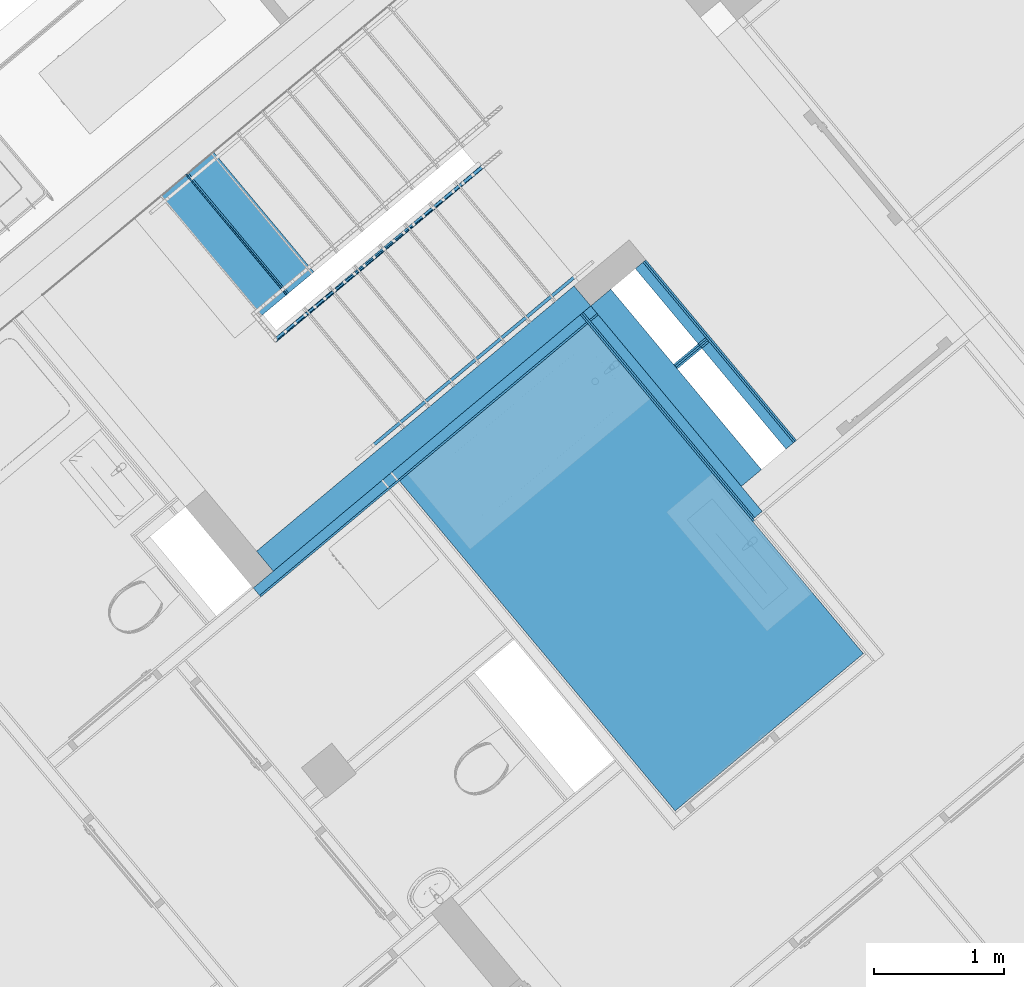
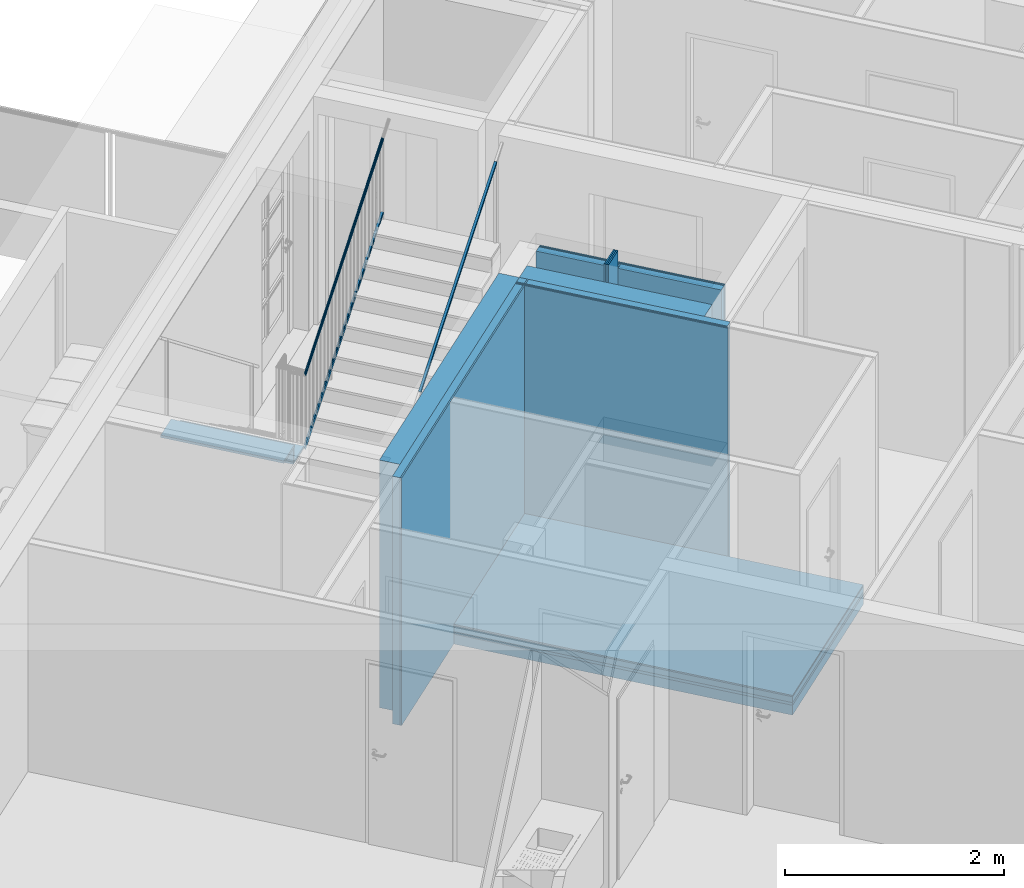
# One storey, part 32 of 67: 23 building element parts, 8 elements without a shape of their own.
"""IFC4 building model written with IfcOpenShell, lengths in metres."""

from ifc_helpers import new_model, entity, si_unit, converted_unit, derived_unit, direction, frame, origin_with_axes, place, context, subcontext, project, spatial, polygons, material, type_object, element, aggregate, save


model = new_model("IFC4")

# Units and contexts
model_context = context("Model", 3, precision=1e-05, world=origin_with_axes(), true_north=direction((0.0, 1.0)))
body_context = subcontext(model_context, "Body", "Model", "MODEL_VIEW")
ifc_project = project(units=[si_unit("LENGTHUNIT", "METRE"), si_unit("AREAUNIT", "SQUARE_METRE"), si_unit("VOLUMEUNIT", "CUBIC_METRE"), converted_unit("PLANEANGLEUNIT", "DEGREE", entity("IfcPlaneAngleMeasure", 0.0174532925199), si_unit("PLANEANGLEUNIT", "RADIAN"), dimensions=[0, 0, 0, 0, 0, 0, 0]), converted_unit("TIMEUNIT", "Year", entity("IfcTimeMeasure", 31556926.0), si_unit("TIMEUNIT", "SECOND"), dimensions=[0, 0, 1, 0, 0, 0, 0]), si_unit("MASSUNIT", "GRAM", prefix="KILO"), si_unit("THERMODYNAMICTEMPERATUREUNIT", "DEGREE_CELSIUS"), si_unit("LUMINOUSINTENSITYUNIT", "LUMEN"), si_unit("ENERGYUNIT", "JOULE", prefix="MEGA"), derived_unit("THERMALCONDUCTANCEUNIT", [(si_unit("POWERUNIT", "WATT"), 1), (si_unit("LENGTHUNIT", "METRE"), -1), (si_unit("THERMODYNAMICTEMPERATUREUNIT", "KELVIN"), -1)]), derived_unit("SPECIFICHEATCAPACITYUNIT", [(si_unit("ENERGYUNIT", "JOULE"), 1), (si_unit("MASSUNIT", "GRAM", prefix="KILO"), -1), (si_unit("THERMODYNAMICTEMPERATUREUNIT", "KELVIN"), -1)]), derived_unit("MASSDENSITYUNIT", [(si_unit("MASSUNIT", "GRAM", prefix="KILO"), 1), (si_unit("VOLUMEUNIT", "CUBIC_METRE"), -1)])], contexts=[model_context])

# Site, building, storey
site_placement = place(None, frame((-0.00153261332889, -0.00661245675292, 0.0), z_axis=(0.0, 0.0, 1.0), x_axis=(1.0, 0.0, 0.0)))
site = spatial("IfcSite", under=ifc_project, at=site_placement, Name="Site", CompositionType="ELEMENT")
building_placement = place(site_placement, origin_with_axes())
building = spatial("IfcBuilding", under=site, at=building_placement, Name="Building", CompositionType="ELEMENT")
storey_placement = place(building_placement, frame((0.0, 0.0, -0.22), z_axis=(0.0, 0.0, 1.0), x_axis=(1.0, 0.0, 0.0)))
storey = spatial("IfcBuildingStorey", under=building, at=storey_placement, Name="EG", CompositionType="ELEMENT", Elevation=-0.22)

# Railing, building element parts
railing_type = type_object("IfcRailingType", Name="Geländerart", PredefinedType="NOTDEFINED")
railing_1_placement = place(storey_placement, frame((-0.398547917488, 23.8355657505, 0.05), z_axis=(0.0, 0.0, 1.0), x_axis=(1.0, 0.0, 0.0)))
railing_1 = element("IfcRailing", 1, at=railing_1_placement, inside=storey, type_object=railing_type, Name="Geländer - 001", PredefinedType="NOTDEFINED")
ifc_material_1 = material(Name="BEKLEIDUNG")
building_element_part_1_placement = place(railing_1_placement, origin_with_axes())
building_element_part_1 = element("IfcBuildingElementPart", 2, at=building_element_part_1_placement, material=ifc_material_1, Name="BEKLEIDUNG", PredefinedType="NOTDEFINED", context=body_context, shape_type="Tessellation", body=[
    polygons([(-1.63742845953, -1.63075810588, 2.62537536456), (-1.63846858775, -1.63088446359, 2.62789734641), (-0.0630386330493, -0.30687497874, 3.89943593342), (-1.63648900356, -1.63122206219, 2.62285338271), (-1.63567876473, -1.63226223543, 2.62040803), (-1.63502236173, -1.63384702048, 2.61811360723), (-1.63453973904, -1.63592826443, 2.61603982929), (-1.63424556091, -1.63844272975, 2.61424970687), (-1.63414876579, -1.64131401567, 2.61279763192), (-1.63425229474, -1.64445487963, 2.61172772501), (-1.63455300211, -1.64776988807, 2.61107249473), (-1.63504175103, -1.65115831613, 2.61085184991), (-1.63570369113, -1.65451720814, 2.61107249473), (-1.63651870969, -1.65774450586, 2.61172772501), (-1.63746204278, -1.66074214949, 2.61279763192), (-1.63850502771, -1.66341905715, 2.61424970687), (-1.63961597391, -1.66569389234, 2.61603982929), (-1.64076112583, -1.66749753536, 2.61811360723), (-1.64190568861, -1.66877518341, 2.62040803), (-1.64301488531, -1.66948801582, 2.62285338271), (-1.64405501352, -1.66961437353, 2.62537536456), (-1.64499446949, -1.66915041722, 2.62789734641), (-1.64580470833, -1.66811024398, 2.63034269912), (-1.64646111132, -1.66652545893, 2.63263712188), (-1.64694373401, -1.66444421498, 2.63471089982), (-1.64723791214, -1.66192974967, 2.63650102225), (-1.64733470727, -1.65905846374, 2.6379530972), (-1.64723117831, -1.65591759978, 2.6390230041), (-1.64693047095, -1.65260259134, 2.63967823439), (-1.64644172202, -1.64921416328, 2.63989887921), (-1.64577978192, -1.64585527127, 2.63967823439), (-1.64496476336, -1.64262797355, 2.6390230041), (-1.64402143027, -1.63963032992, 2.6379530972), (-1.64297844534, -1.63695342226, 2.63650102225), (-1.64186749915, -1.63467858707, 2.63471089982), (-1.64072234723, -1.63287494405, 2.63263712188), (-1.63957778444, -1.631597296, 2.63034269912), (-0.0636185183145, -0.30824141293, 3.90158839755), (-0.0621391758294, -0.305826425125, 3.89721601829), (-0.0609474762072, -0.305127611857, 3.89499610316), (-0.0594997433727, -0.304799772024, 3.89284363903), (-0.0578399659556, -0.304852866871, 3.89082402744), (-0.0560185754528, -0.305285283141, 3.88899863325), (-0.054090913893, -0.306083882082, 3.88742292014), (-0.0521155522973, -0.30722439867, 3.88614476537), (-0.0501525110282, -0.308672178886, 3.88520300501), (-0.0482614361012, -0.310383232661, 3.88462625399), (-0.0464997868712, -0.312305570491, 3.88443203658), (-0.0449210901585, -0.314380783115, 3.88462625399), (-0.043573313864, -0.316545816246, 3.88520300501), (-0.0424974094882, -0.318734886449, 3.88614476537), (-0.0417260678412, -0.320881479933, 3.88742292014), (-0.0412827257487, -0.322920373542, 3.88899863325), (-0.0411808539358, -0.324789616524, 3.89082402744), (-0.041423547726, -0.326432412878, 3.89284363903), (-0.0420034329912, -0.327798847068, 3.89499610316), (-0.0429028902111, -0.328847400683, 3.89721601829), (-0.0440945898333, -0.329546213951, 3.89943593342), (-0.0455423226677, -0.329874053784, 3.90158839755), (-0.0472021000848, -0.329820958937, 3.90360800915), (-0.0490234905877, -0.329388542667, 3.90543340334), (-0.0509511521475, -0.328589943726, 3.90700911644), (-0.0529265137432, -0.327449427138, 3.90828727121), (-0.0548895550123, -0.326001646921, 3.90922903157), (-0.0567806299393, -0.324290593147, 3.90980578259), (-0.0585422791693, -0.322368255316, 3.91), (-0.0601209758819, -0.320293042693, 3.90980578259), (-0.0614687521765, -0.318128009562, 3.90922903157), (-0.0625446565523, -0.315938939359, 3.90828727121), (-0.0633159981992, -0.313792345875, 3.90700911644), (-0.0637593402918, -0.311753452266, 3.90543340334), (-0.0638612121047, -0.309884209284, 3.90360800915)], [[[1, 2, 3]], [[1, 4, 5, 6, 7, 8, 9, 10, 11, 12, 13, 14, 15, 16, 17, 18, 19, 20, 21, 22, 23, 24, 25, 26, 27, 28, 29, 30, 31, 32, 33, 34, 35, 36, 37, 2]], [[2, 38, 3]], [[1, 3, 39]], [[4, 1, 39]], [[5, 4, 40]], [[6, 5, 41]], [[7, 6, 42]], [[8, 7, 43]], [[9, 8, 44]], [[10, 9, 45]], [[11, 10, 46]], [[12, 11, 47]], [[13, 12, 48]], [[14, 13, 49]], [[15, 14, 50]], [[16, 15, 51]], [[17, 16, 52]], [[18, 17, 53]], [[19, 18, 54]], [[20, 19, 55]], [[21, 20, 56]], [[22, 21, 57]], [[23, 22, 58]], [[24, 23, 59]], [[25, 24, 60]], [[26, 25, 61]], [[27, 26, 62]], [[28, 27, 63]], [[29, 28, 64]], [[30, 29, 65]], [[31, 30, 66]], [[32, 31, 67]], [[33, 32, 68]], [[34, 33, 69]], [[35, 34, 70]], [[36, 35, 71]], [[37, 36, 72]], [[2, 37, 38]], [[39, 3, 38, 72, 71, 70, 69, 68, 67, 66, 65, 64, 63, 62, 61, 60, 59, 58, 57, 56, 55, 54, 53, 52, 51, 50, 49, 48, 47, 46, 45, 44, 43, 42, 41, 40]], [[4, 39, 40]], [[5, 40, 41]], [[6, 41, 42]], [[7, 42, 43]], [[8, 43, 44]], [[9, 44, 45]], [[10, 45, 46]], [[11, 46, 47]], [[12, 47, 48]], [[13, 48, 49]], [[14, 49, 50]], [[15, 50, 51]], [[16, 51, 52]], [[17, 52, 53]], [[18, 53, 54]], [[19, 54, 55]], [[20, 55, 56]], [[21, 56, 57]], [[22, 57, 58]], [[23, 58, 59]], [[24, 59, 60]], [[25, 60, 61]], [[26, 61, 62]], [[27, 62, 63]], [[28, 63, 64]], [[29, 64, 65]], [[30, 65, 66]], [[31, 66, 67]], [[32, 67, 68]], [[33, 68, 69]], [[34, 69, 70]], [[35, 70, 71]], [[36, 71, 72]], [[37, 72, 38]]], closed=True),
])
building_element_part_2_placement = place(railing_1_placement, origin_with_axes())
building_element_part_2 = element("IfcBuildingElementPart", 3, at=building_element_part_2_placement, material=ifc_material_1, Name="BEKLEIDUNG", PredefinedType="NOTDEFINED", context=body_context, shape_type="Tessellation", body=[
    polygons([(-1.6539527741, -1.66459421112, 1.82200180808), (-1.64445279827, -1.66621433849, 1.79779595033), (-0.0455094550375, -0.327767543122, 3.06934668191), (-1.64843064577, -1.63221398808, 1.82200180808), (-1.63893066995, -1.63383411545, 1.79779595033), (-0.0615396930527, -0.308583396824, 3.06934668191), (-0.0555448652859, -0.336153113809, 3.09065331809), (-0.0715751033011, -0.316968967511, 3.09065331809)], [[[1, 2, 3]], [[1, 4, 5, 2]], [[2, 6, 3]], [[1, 3, 7]], [[4, 1, 7]], [[5, 4, 8]], [[2, 5, 6]], [[7, 3, 6, 8]], [[4, 7, 8]], [[5, 8, 6]]], closed=True),
])
aggregate(railing_1, [building_element_part_1, building_element_part_2])

# Railing, building element part
railing_2_placement = place(storey_placement, frame((-1.26480795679, 21.3396367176, 1.82058823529), z_axis=(0.0, 0.0, 1.0), x_axis=(1.0, 0.0, 0.0)))
railing_2 = element("IfcRailing", 4, at=railing_2_placement, inside=storey, type_object=railing_type, Name="Geländer - 002", PredefinedType="NOTDEFINED")
building_element_part_3_placement = place(railing_2_placement, origin_with_axes())
building_element_part_3 = element("IfcBuildingElementPart", 5, at=building_element_part_3_placement, material=ifc_material_1, Name="BEKLEIDUNG", PredefinedType="NOTDEFINED", context=body_context, shape_type="Tessellation", body=[
    polygons([(-0.024045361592, 0.0287762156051, 0.9), (-0.0139891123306, 0.0371791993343, 0.878710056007), (1.53111960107, 1.32826925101, 2.11812182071), (1.52106335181, 1.31986626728, 2.13941176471), (-0.0400755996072, 0.0479603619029, 0.9), (-0.0300193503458, 0.0563633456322, 0.878710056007), (1.51508936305, 1.34745339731, 2.11812182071), (1.50503311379, 1.33905041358, 2.13941176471)], [[[1, 2, 3, 4]], [[1, 5, 6, 2]], [[2, 6, 7, 3]], [[4, 3, 7, 8]], [[5, 1, 4, 8]], [[6, 5, 8, 7]]], closed=True),
])
aggregate(railing_2, [building_element_part_3])

# Stair, building element parts
stair_type = type_object("IfcStairType", Name="Treppentyp", PredefinedType="NOTDEFINED")
stair_placement = place(storey_placement, frame((-0.972083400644, 24.9200947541, 0.05), z_axis=(0.0, 0.0, 1.0), x_axis=(1.0, 0.0, 0.0)))
stair = element("IfcStair", 6, at=stair_placement, inside=storey, type_object=stair_type, Name="Treppe - 001", PredefinedType="NOTDEFINED")
building_element_part_4_placement = place(stair_placement, origin_with_axes())
building_element_part_4 = element("IfcBuildingElementPart", 7, at=building_element_part_4_placement, material=ifc_material_1, Name="BEKLEIDUNG", PredefinedType="NOTDEFINED", context=body_context, shape_type="Tessellation", body=[
    polygons([(-1.75255458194, -1.46427912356, 1.56852941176), (-1.76022856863, -1.47069082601, 1.56852941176), (-0.990824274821, -2.39156922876, 1.56852941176), (-0.983150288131, -2.38515752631, 1.56852941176), (-1.75255458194, -1.46427912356, 1.41647058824), (-1.76022856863, -1.47069082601, 1.41647058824), (-0.990824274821, -2.39156922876, 1.41647058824), (-0.983150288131, -2.38515752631, 1.41647058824)], [[[1, 2, 3, 4]], [[1, 5, 6, 2]], [[2, 6, 7, 3]], [[4, 3, 7, 8]], [[5, 1, 4, 8]], [[6, 5, 8, 7]]], closed=True),
])
building_element_part_5_placement = place(stair_placement, origin_with_axes())
building_element_part_5 = element("IfcBuildingElementPart", 8, at=building_element_part_5_placement, material=ifc_material_1, Name="BEKLEIDUNG", PredefinedType="NOTDEFINED", context=body_context, shape_type="Tessellation", body=[
    polygons([(-0.778492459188, -2.21416360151, 1.39147058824), (-1.547896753, -1.29328519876, 1.39147058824), (-1.547896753, -1.29328519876, 1.41647058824), (-0.778492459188, -2.21416360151, 1.41647058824), (-0.99082427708, -2.39156923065, 1.39147058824), (-1.76022856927, -1.47069082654, 1.39147058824), (-1.76022856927, -1.47069082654, 1.41647058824), (-0.99082427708, -2.39156923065, 1.41647058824)], [[[1, 2, 3, 4]], [[1, 5, 6, 2]], [[2, 6, 7, 3]], [[4, 3, 7, 8]], [[5, 1, 4, 8]], [[6, 5, 8, 7]]], closed=True),
])
building_element_part_6_placement = place(stair_placement, origin_with_axes())
building_element_part_6 = element("IfcBuildingElementPart", 9, at=building_element_part_6_placement, material=ifc_material_1, Name="BEKLEIDUNG", PredefinedType="NOTDEFINED", context=body_context, shape_type="Tessellation", body=[
    polygons([(-0.971639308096, -2.37553997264, 1.56852941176), (-1.74104360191, -1.45466156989, 1.56852941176), (-1.74104360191, -1.45466156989, 1.59352941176), (-0.971639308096, -2.37553997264, 1.59352941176), (-1.16478615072, -2.53691633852, 1.56852941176), (-1.18397113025, -2.55294559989, 1.56852941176), (-1.95337541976, -1.63206719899, 1.56852941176), (-1.93419045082, -1.61603794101, 1.56852941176), (-1.93419045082, -1.61603794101, 1.59352941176), (-1.95337541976, -1.63206719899, 1.59352941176), (-1.18397113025, -2.55294559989, 1.59352941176), (-1.16478615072, -2.53691633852, 1.59352941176)], [[[1, 2, 3, 4]], [[1, 5, 6, 7, 8, 2]], [[2, 8, 9, 3]], [[4, 3, 9, 10, 11, 12]], [[5, 1, 4, 12]], [[6, 5, 12, 11]], [[7, 6, 11, 10]], [[8, 7, 10, 9]]], closed=True),
])
aggregate(stair, [building_element_part_4, building_element_part_5, building_element_part_6])

# Wall, building element parts
wall_type_1 = type_object("IfcWallType", Name="LB 9,0 cm einfache Vorsatzschale + STB 290", PredefinedType="NOTDEFINED")
wall_1_placement = place(storey_placement, frame((0.242882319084, 22.5994599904, 0.0), z_axis=(0.0, 0.0, 1.0), x_axis=(-0.767365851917, -0.641209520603, 0.0)))
wall_1 = element("IfcWall", 10, at=wall_1_placement, inside=storey, type_object=wall_type_1, Name="Wand-003", PredefinedType="NOTDEFINED")
ifc_material_2 = material(Name="Gipskarton")
building_element_part_7_placement = place(wall_1_placement, origin_with_axes())
building_element_part_7 = element("IfcBuildingElementPart", 11, at=building_element_part_7_placement, material=ifc_material_2, Name="Gipskarton", PredefinedType="NOTDEFINED", context=body_context, shape_type="Tessellation", body=[
    polygons([(3.37052385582, 0.275, 0.0), (0.0, 0.275, 0.0), (0.0, 0.29, 0.0), (3.37052385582, 0.29, 0.0), (3.37052385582, 0.275, 2.76), (0.0, 0.275, 2.76), (0.0, 0.29, 2.76), (3.37052385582, 0.29, 2.76)], [[[1, 2, 3, 4]], [[5, 6, 2, 1]], [[3, 2, 6, 7]], [[4, 3, 7, 8]], [[4, 8, 5, 1]], [[8, 7, 6, 5]]], closed=True),
])
ifc_material_3 = material(Name="Mineralwolle weich")
building_element_part_8_placement = place(wall_1_placement, origin_with_axes())
building_element_part_8 = element("IfcBuildingElementPart", 12, at=building_element_part_8_placement, material=ifc_material_3, Name="Mineralwolle weich", PredefinedType="NOTDEFINED", context=body_context, shape_type="Tessellation", body=[
    polygons([(3.37052385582, 0.2, 0.0), (0.0, 0.2, 0.0), (0.0, 0.275, 0.0), (3.37052385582, 0.275, 0.0), (3.37052385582, 0.2, 2.76), (0.0, 0.2, 2.76), (0.0, 0.275, 2.76), (3.37052385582, 0.275, 2.76)], [[[1, 2, 3, 4]], [[5, 6, 2, 1]], [[3, 2, 6, 7]], [[4, 3, 7, 8]], [[4, 8, 5, 1]], [[8, 7, 6, 5]]], closed=True),
])
ifc_material_4 = material(Name="Stahlbeton Wand")
building_element_part_9_placement = place(wall_1_placement, origin_with_axes())
building_element_part_9 = element("IfcBuildingElementPart", 13, at=building_element_part_9_placement, material=ifc_material_4, Name="Stahlbeton Wand", PredefinedType="NOTDEFINED", context=body_context, shape_type="Tessellation", body=[
    polygons([(3.17052385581, 0.0, 0.0), (0.0, 0.0, 0.0), (0.0, 0.2, 0.0), (3.17052385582, 0.2, 0.0), (3.17052385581, 0.0, 2.76), (0.0, 0.0, 2.76), (0.0, 0.2, 2.76), (3.17052385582, 0.2, 2.76)], [[[1, 2, 3, 4]], [[5, 6, 2, 1]], [[3, 2, 6, 7]], [[4, 3, 7, 8]], [[4, 8, 5, 1]], [[8, 7, 6, 5]]], closed=True),
])
aggregate(wall_1, [building_element_part_7, building_element_part_8, building_element_part_9])

wall_type_2 = type_object("IfcWallType", Name="LB Dreifach Vorsatzschale Schacht 45", PredefinedType="NOTDEFINED")
wall_2_placement = place(storey_placement, frame((1.03476523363, 21.9638652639, 0.0), z_axis=(0.0, 0.0, 1.0), x_axis=(0.767670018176, 0.640845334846, 0.0)))
wall_2 = element("IfcWall", 14, at=wall_2_placement, inside=storey, type_object=wall_type_2, Name="Wand-002", PredefinedType="NOTDEFINED")
building_element_part_10_placement = place(wall_2_placement, origin_with_axes())
building_element_part_10 = element("IfcBuildingElementPart", 15, at=building_element_part_10_placement, material=ifc_material_2, Name="Gipskarton", PredefinedType="NOTDEFINED", context=body_context, shape_type="Tessellation", body=[
    polygons([(0.320121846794, 0.045, 2.76), (0.320121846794, 0.03, 2.76), (0.320121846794, 0.03, 0.0), (0.320121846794, 0.045, 0.0), (0.245121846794, 0.03, 2.76), (0.245121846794, 0.045, 2.76), (0.245121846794, 0.03, 2.96), (0.0, 0.03, 2.96), (0.0, 0.03, 0.0), (0.0, 0.045, 0.0), (0.0, 0.045, 2.96), (0.245121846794, 0.045, 2.96)], [[[1, 2, 3, 4]], [[5, 2, 1, 6]], [[5, 7, 8, 9, 3, 2]], [[4, 3, 9, 10]], [[6, 1, 4, 10, 11, 12]], [[12, 7, 5, 6]], [[7, 12, 11, 8]], [[11, 10, 9, 8]]], closed=True),
])
building_element_part_11_placement = place(wall_2_placement, origin_with_axes())
building_element_part_11 = element("IfcBuildingElementPart", 16, at=building_element_part_11_placement, material=ifc_material_2, Name="Gipskarton", PredefinedType="NOTDEFINED", context=body_context, shape_type="Tessellation", body=[
    polygons([(0.320121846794, 0.03, 2.76), (0.320121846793, 0.015, 2.76), (0.320121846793, 0.015, 0.0), (0.320121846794, 0.03, 0.0), (0.245121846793, 0.015, 2.76), (0.245121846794, 0.03, 2.76), (0.245121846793, 0.015, 2.96), (0.0, 0.015, 2.96), (0.0, 0.015, 0.0), (0.0, 0.03, 0.0), (0.0, 0.03, 2.96), (0.245121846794, 0.03, 2.96)], [[[1, 2, 3, 4]], [[5, 2, 1, 6]], [[5, 7, 8, 9, 3, 2]], [[4, 3, 9, 10]], [[6, 1, 4, 10, 11, 12]], [[12, 7, 5, 6]], [[7, 12, 11, 8]], [[11, 10, 9, 8]]], closed=True),
])
building_element_part_12_placement = place(wall_2_placement, origin_with_axes())
building_element_part_12 = element("IfcBuildingElementPart", 17, at=building_element_part_12_placement, material=ifc_material_2, Name="Gipskarton", PredefinedType="NOTDEFINED", context=body_context, shape_type="Tessellation", body=[
    polygons([(0.320121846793, 0.015, 2.76), (0.320121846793, 0.0, 2.76), (0.320121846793, 0.0, 0.0), (0.320121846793, 0.015, 0.0), (0.245121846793, 0.0, 2.76), (0.245121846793, 0.015, 2.76), (0.245121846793, 0.0, 2.96), (0.0, 0.0, 2.96), (0.0, 0.0, 0.0), (0.0, 0.015, 0.0), (0.0, 0.015, 2.96), (0.245121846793, 0.015, 2.96)], [[[1, 2, 3, 4]], [[5, 2, 1, 6]], [[5, 7, 8, 9, 3, 2]], [[4, 3, 9, 10]], [[6, 1, 4, 10, 11, 12]], [[12, 7, 5, 6]], [[7, 12, 11, 8]], [[11, 10, 9, 8]]], closed=True),
])
aggregate(wall_2, [building_element_part_10, building_element_part_11, building_element_part_12])

wall_type_3 = type_object("IfcWallType", Name="LB 10,5 cm doppelte Vorsatzschale Bad + STB 305", PredefinedType="NOTDEFINED")
wall_3_placement = place(storey_placement, frame((1.67884071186, 21.1914100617, 0.0), z_axis=(0.0, 0.0, 1.0), x_axis=(-0.640845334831, 0.767670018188, 0.0)))
wall_3 = element("IfcWall", 18, at=wall_3_placement, inside=storey, type_object=wall_type_3, Name="Wand-003", PredefinedType="NOTDEFINED")
building_element_part_13_placement = place(wall_3_placement, origin_with_axes())
building_element_part_13 = element("IfcBuildingElementPart", 19, at=building_element_part_13_placement, material=ifc_material_2, Name="Gipskarton", PredefinedType="NOTDEFINED", context=body_context, shape_type="Tessellation", body=[
    polygons([(1.80110222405, 0.29, 0.0), (-0.265, 0.29, 0.0), (-0.265, 0.305, 0.0), (1.80109510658, 0.305, 0.0), (1.80110222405, 0.29, 2.76), (-0.265, 0.29, 2.76), (-0.265, 0.305, 2.76), (1.80109510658, 0.305, 2.76)], [[[1, 2, 3, 4]], [[5, 6, 2, 1]], [[3, 2, 6, 7]], [[4, 3, 7, 8]], [[4, 8, 5, 1]], [[8, 7, 6, 5]]], closed=True),
])
building_element_part_14_placement = place(wall_3_placement, origin_with_axes())
building_element_part_14 = element("IfcBuildingElementPart", 20, at=building_element_part_14_placement, material=ifc_material_2, Name="Gipskarton", PredefinedType="NOTDEFINED", context=body_context, shape_type="Tessellation", body=[
    polygons([(1.80110934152, 0.275, 0.0), (-0.25, 0.275, 0.0), (-0.25, 0.29, 0.0), (1.80110222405, 0.29, 0.0), (1.80110934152, 0.275, 2.76), (-0.25, 0.275, 2.76), (-0.25, 0.29, 2.76), (1.80110222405, 0.29, 2.76)], [[[1, 2, 3, 4]], [[5, 6, 2, 1]], [[3, 2, 6, 7]], [[4, 3, 7, 8]], [[4, 8, 5, 1]], [[8, 7, 6, 5]]], closed=True),
])
building_element_part_15_placement = place(wall_3_placement, origin_with_axes())
building_element_part_15 = element("IfcBuildingElementPart", 21, at=building_element_part_15_placement, material=ifc_material_3, Name="Mineralwolle weich", PredefinedType="NOTDEFINED", context=body_context, shape_type="Tessellation", body=[
    polygons([(1.80114492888, 0.2, 0.0), (-0.25, 0.2, 0.0), (-0.25, 0.275, 0.0), (1.80110934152, 0.275, 0.0), (1.80114492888, 0.2, 2.76), (-0.25, 0.2, 2.76), (-0.25, 0.275, 2.76), (1.80110934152, 0.275, 2.76)], [[[1, 2, 3, 4]], [[5, 6, 2, 1]], [[3, 2, 6, 7]], [[4, 3, 7, 8]], [[4, 8, 5, 1]], [[8, 7, 6, 5]]], closed=True),
])
building_element_part_16_placement = place(wall_3_placement, origin_with_axes())
building_element_part_16 = element("IfcBuildingElementPart", 22, at=building_element_part_16_placement, material=ifc_material_4, Name="Stahlbeton Wand", PredefinedType="NOTDEFINED", context=body_context, shape_type="Tessellation", body=[
    polygons([(1.80123982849, 0.0, 0.0), (0.0, 0.0, 0.0), (0.0, 0.2, 0.0), (1.80114492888, 0.2, 0.0), (1.80123982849, 0.0, 2.76), (0.0, 0.0, 2.76), (0.0, 0.2, 2.76), (1.80114492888, 0.2, 2.76)], [[[1, 2, 3, 4]], [[5, 6, 2, 1]], [[3, 2, 6, 7]], [[4, 3, 7, 8]], [[4, 8, 5, 1]], [[8, 7, 6, 5]]], closed=True),
])
aggregate(wall_3, [building_element_part_13, building_element_part_14, building_element_part_15, building_element_part_16])

wall_type_4 = type_object("IfcWallType", Name="LB 10,5 cm doppelte Vorsatzschale Bad 105", PredefinedType="NOTDEFINED")
wall_4_placement = place(storey_placement, frame((0.71304114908, 22.7317569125, 0.0), z_axis=(0.0, 0.0, 1.0), x_axis=(0.640845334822, -0.767670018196, 0.0)))
wall_4 = element("IfcWall", 23, at=wall_4_placement, inside=storey, type_object=wall_type_4, Name="Wand-004", PredefinedType="NOTDEFINED")
building_element_part_17_placement = place(wall_4_placement, origin_with_axes())
building_element_part_17 = element("IfcBuildingElementPart", 24, at=building_element_part_17_placement, material=ifc_material_2, Name="Gipskarton", PredefinedType="NOTDEFINED", context=body_context, shape_type="Tessellation", body=[
    polygons([(0.0, 0.105, 2.76), (1.80140621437, 0.105, 2.76), (1.80140623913, 0.105, 0.0), (0.0, 0.105, 0.0), (1.80140621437, 0.09, 2.76), (0.0, 0.09, 2.76), (1.80140623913, 0.09, 0.0), (0.0, 0.09, 0.0)], [[[1, 2, 3, 4]], [[5, 2, 1, 6]], [[2, 5, 7, 3]], [[4, 3, 7, 8]], [[6, 1, 4, 8]], [[5, 6, 8, 7]]], closed=True),
])
building_element_part_18_placement = place(wall_4_placement, origin_with_axes())
building_element_part_18 = element("IfcBuildingElementPart", 25, at=building_element_part_18_placement, material=ifc_material_2, Name="Gipskarton", PredefinedType="NOTDEFINED", context=body_context, shape_type="Tessellation", body=[
    polygons([(0.0, 0.09, 2.76), (1.80140621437, 0.09, 2.76), (1.80140623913, 0.09, 0.0), (0.0, 0.09, 0.0), (1.80140621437, 0.075, 2.76), (0.0, 0.075, 2.76), (1.80140623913, 0.075, 0.0), (0.0, 0.075, 0.0)], [[[1, 2, 3, 4]], [[5, 2, 1, 6]], [[2, 5, 7, 3]], [[4, 3, 7, 8]], [[6, 1, 4, 8]], [[5, 6, 8, 7]]], closed=True),
])
building_element_part_19_placement = place(wall_4_placement, origin_with_axes())
building_element_part_19 = element("IfcBuildingElementPart", 26, at=building_element_part_19_placement, material=ifc_material_3, Name="Mineralwolle weich", PredefinedType="NOTDEFINED", context=body_context, shape_type="Tessellation", body=[
    polygons([(0.795662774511, 0.075, 2.76), (1.80140621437, 0.075, 2.76), (1.80140623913, 0.075, 0.0), (0.795662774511, 0.075, 0.0), (1.80140621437, 0.0, 2.76), (0.795662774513, 0.0, 2.76), (1.80140623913, 0.0, 0.0), (0.795662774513, 0.0, 0.0)], [[[1, 2, 3, 4]], [[5, 2, 1, 6]], [[2, 5, 7, 3]], [[4, 3, 7, 8]], [[6, 1, 4, 8]], [[5, 6, 8, 7]]], closed=True),
    polygons([(0.0, 0.075, 2.76), (0.750662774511, 0.075, 2.76), (0.750662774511, 0.075, 0.0), (0.0, 0.075, 0.0), (0.750662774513, 0.0, 2.76), (0.0, 0.0, 2.76), (0.750662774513, 0.0, 0.0), (0.0, 0.0, 0.0)], [[[1, 2, 3, 4]], [[5, 2, 1, 6]], [[2, 5, 7, 3]], [[3, 7, 8, 4]], [[6, 1, 4, 8]], [[5, 6, 8, 7]]], closed=True),
])
aggregate(wall_4, [building_element_part_17, building_element_part_18, building_element_part_19])

# Covering, building element parts
covering_type = type_object("IfcCoveringType", Name="DE 01 Decke Wohnung/Wohnung Fließen 220", PredefinedType="NOTDEFINED")
covering_placement = place(storey_placement, frame((2.46070637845, 19.7813643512, 0.22), z_axis=(0.0, 0.0, 1.0), x_axis=(1.0, 0.0, 0.0)))
covering = element("IfcCovering", 27, at=covering_placement, inside=storey, type_object=covering_type, Name="Decke-003", PredefinedType="NOTDEFINED")
ifc_material_5 = material(Name="Fliesen")
building_element_part_20_placement = place(covering_placement, origin_with_axes())
building_element_part_20 = element("IfcBuildingElementPart", 28, at=building_element_part_20_placement, material=ifc_material_5, Name="Fliesen", PredefinedType="NOTDEFINED", context=body_context, shape_type="Tessellation", body=[
    polygons([(-6.05786430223e-05, -5.06193685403e-05, -0.015), (-6.05786430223e-05, -5.06193685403e-05, 0.0), (-1.44291267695, -1.20569522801, 0.0), (-1.44291267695, -1.20569522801, -0.015), (-0.846181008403, 1.01115532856, 0.0), (-0.846181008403, 1.01115532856, -0.015), (-2.11255233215, 2.52814428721, 0.0), (-3.55544192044, 1.32246835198, 0.0), (-3.55544192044, 1.32246835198, -0.015), (-2.11255233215, 2.52814428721, -0.015)], [[[1, 2, 3, 4]], [[5, 2, 1, 6]], [[2, 5, 7, 8, 3]], [[4, 3, 8, 9]], [[6, 1, 4, 9, 10]], [[5, 6, 10, 7]], [[8, 7, 10, 9]]], closed=True),
])
ifc_material_6 = material(Name="Estrich")
building_element_part_21_placement = place(covering_placement, origin_with_axes())
building_element_part_21 = element("IfcBuildingElementPart", 29, at=building_element_part_21_placement, material=ifc_material_6, Name="Estrich", PredefinedType="NOTDEFINED", context=body_context, shape_type="Tessellation", body=[
    polygons([(-6.05786430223e-05, -5.06193685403e-05, -0.08), (-6.05786430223e-05, -5.06193685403e-05, -0.015), (-1.44291267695, -1.20569522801, -0.015), (-1.44291267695, -1.20569522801, -0.08), (-0.846181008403, 1.01115532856, -0.015), (-0.846181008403, 1.01115532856, -0.08), (-2.11255233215, 2.52814428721, -0.015), (-3.55544192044, 1.32246835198, -0.015), (-3.55544192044, 1.32246835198, -0.08), (-2.11255233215, 2.52814428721, -0.08)], [[[1, 2, 3, 4]], [[5, 2, 1, 6]], [[2, 5, 7, 8, 3]], [[4, 3, 8, 9]], [[6, 1, 4, 9, 10]], [[5, 6, 10, 7]], [[8, 7, 10, 9]]], closed=True),
])
ifc_material_7 = material(Name="Trittschalldämmung")
building_element_part_22_placement = place(covering_placement, origin_with_axes())
building_element_part_22 = element("IfcBuildingElementPart", 30, at=building_element_part_22_placement, material=ifc_material_7, Name="Trittschalldämmung", PredefinedType="NOTDEFINED", context=body_context, shape_type="Tessellation", body=[
    polygons([(-6.05786430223e-05, -5.06193685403e-05, -0.11), (-6.05786430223e-05, -5.06193685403e-05, -0.08), (-1.44291267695, -1.20569522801, -0.08), (-1.44291267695, -1.20569522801, -0.11), (-0.846181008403, 1.01115532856, -0.08), (-0.846181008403, 1.01115532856, -0.11), (-2.11255233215, 2.52814428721, -0.08), (-3.55544192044, 1.32246835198, -0.08), (-3.55544192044, 1.32246835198, -0.11), (-2.11255233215, 2.52814428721, -0.11)], [[[1, 2, 3, 4]], [[5, 2, 1, 6]], [[2, 5, 7, 8, 3]], [[4, 3, 8, 9]], [[6, 1, 4, 9, 10]], [[5, 6, 10, 7]], [[8, 7, 10, 9]]], closed=True),
])
ifc_material_8 = material(Name="Schüttung")
building_element_part_23_placement = place(covering_placement, origin_with_axes())
building_element_part_23 = element("IfcBuildingElementPart", 31, at=building_element_part_23_placement, material=ifc_material_8, Name="Schüttung", PredefinedType="NOTDEFINED", context=body_context, shape_type="Tessellation", body=[
    polygons([(-6.05786430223e-05, -5.06193685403e-05, -0.22), (-6.05786430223e-05, -5.06193685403e-05, -0.11), (-1.44291267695, -1.20569522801, -0.11), (-1.44291267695, -1.20569522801, -0.22), (-0.846181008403, 1.01115532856, -0.11), (-0.846181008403, 1.01115532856, -0.22), (-2.11255233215, 2.52814428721, -0.11), (-3.55544192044, 1.32246835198, -0.11), (-3.55544192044, 1.32246835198, -0.22), (-2.11255233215, 2.52814428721, -0.22)], [[[1, 2, 3, 4]], [[5, 2, 1, 6]], [[2, 5, 7, 8, 3]], [[9, 4, 3, 8]], [[6, 1, 4, 9, 10]], [[5, 6, 10, 7]], [[8, 7, 10, 9]]], closed=True),
])
aggregate(covering, [building_element_part_20, building_element_part_21, building_element_part_22, building_element_part_23])

save(model, "model.ifc")
